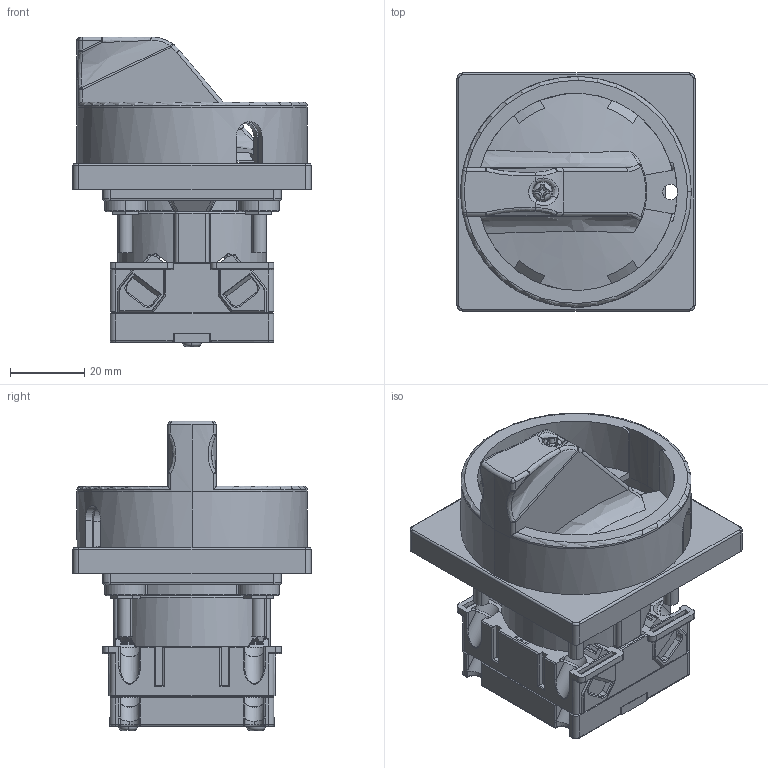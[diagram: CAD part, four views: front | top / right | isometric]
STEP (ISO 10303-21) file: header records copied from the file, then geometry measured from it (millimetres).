
FILE_DESCRIPTION (( 'STEP AP214' ), '1' );
FILE_NAME ('Ïåðåêëþ÷àòåëü 4G10-XXXX-U-S25,S6 1ê.STEP', '2022-11-28T07:03:07', ( '' ), ( '' ), 'SwSTEP 2.0', 'SolidWorks 2018', '' );
FILE_SCHEMA (( 'AUTOMOTIVE_DESIGN' ));
Length unit declared in the file: millimetre
Products named in the file (1): Ïåðåêëþ÷àòåëü 4G10-XXXX-U-S25,S6 1ê
Bounding box: 64 x 64 x 83.3 mm (x, y, z)
Volume: 101474.6 mm3; surface area: 63939.3 mm2
Topology: 26 solids, 34 shells, 2723 faces, 7057 edges, 4407 vertices
Faces by surface type: plane 1367, cylinder 955, torus 153, cone 108, bspline 75, sphere 65
Entity records: 141095 total; most frequent: CARTESIAN_POINT 45904, ORIENTED_EDGE 13984, DIRECTION 13191, EDGE_CURVE 6992, AXIS2_PLACEMENT_3D 4495, VERTEX_POINT 4395, LINE 4201, VECTOR 4201
